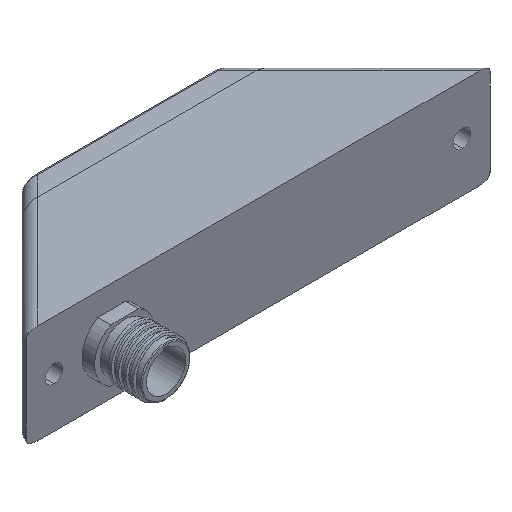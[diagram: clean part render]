
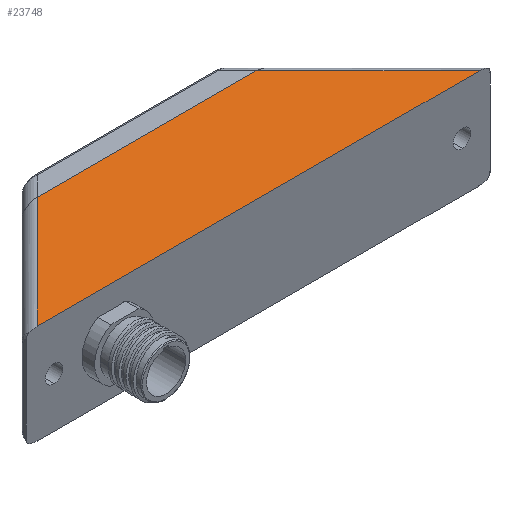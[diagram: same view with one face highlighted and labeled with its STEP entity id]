
A CAD part, isometric view. The second image highlights one B-rep face of the part: STEP entity #23748.
In plain terms, the highlighted planar face has unit normal (0, 0, 1).
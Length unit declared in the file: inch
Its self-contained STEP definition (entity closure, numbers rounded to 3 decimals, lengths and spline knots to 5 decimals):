
#218 = CARTESIAN_POINT ( 'NONE',  ( 0., 2.75, 0.5795 ) ) ;
#1493 = VECTOR ( 'NONE', #52422, 39.37008 ) ;
#2829 = DIRECTION ( 'NONE',  ( 0., 0., -1. ) ) ;
#3501 = VERTEX_POINT ( 'NONE', #37445 ) ;
#3709 = DIRECTION ( 'NONE',  ( -0.707, -0.707, 0. ) ) ;
#4293 = CARTESIAN_POINT ( 'NONE',  ( -0.08839, 2.66161, 0.5795 ) ) ;
#5758 = VECTOR ( 'NONE', #3709, 39.37008 ) ;
#6595 = VERTEX_POINT ( 'NONE', #27527 ) ;
#6928 = FACE_OUTER_BOUND ( 'NONE', #32330, .T. ) ;
#7852 = ORIENTED_EDGE ( 'NONE', *, *, #54850, .T. ) ;
#14604 = CARTESIAN_POINT ( 'NONE',  ( -1.45, 1.3, 0.5795 ) ) ;
#15787 = EDGE_CURVE ( 'NONE', #44847, #6595, #27568, .T. ) ;
#18565 = VECTOR ( 'NONE', #35562, 39.37008 ) ;
#22598 = ORIENTED_EDGE ( 'NONE', *, *, #15787, .T. ) ;
#22749 = ORIENTED_EDGE ( 'NONE', *, *, #51250, .T. ) ;
#23748 = ADVANCED_FACE ( 'NONE', ( #6928 ), #23929, .F. ) ;
#23929 = PLANE ( 'NONE',  #27787 ) ;
#27527 = CARTESIAN_POINT ( 'NONE',  ( 2.57322, 0., 0.5795 ) ) ;
#27568 = LINE ( 'NONE', #44491, #18565 ) ;
#27787 = AXIS2_PLACEMENT_3D ( 'NONE', #218, #2829, #34349 ) ;
#30111 = VERTEX_POINT ( 'NONE', #36519 ) ;
#30122 = ORIENTED_EDGE ( 'NONE', *, *, #51898, .T. ) ;
#31149 = CARTESIAN_POINT ( 'NONE',  ( -2.57322, 0., 0.5795 ) ) ;
#32330 = EDGE_LOOP ( 'NONE', ( #30122, #22749, #22598, #7852 ) ) ;
#34349 = DIRECTION ( 'NONE',  ( -1., 0., 0. ) ) ;
#34492 = VECTOR ( 'NONE', #50929, 39.37008 ) ;
#35562 = DIRECTION ( 'NONE',  ( 1., 0., 0. ) ) ;
#36519 = CARTESIAN_POINT ( 'NONE',  ( -1.27322, 1.3, 0.5795 ) ) ;
#37445 = CARTESIAN_POINT ( 'NONE',  ( 1.27322, 1.3, 0.5795 ) ) ;
#41410 = LINE ( 'NONE', #45889, #5758 ) ;
#44491 = CARTESIAN_POINT ( 'NONE',  ( -2.75, 0., 0.5795 ) ) ;
#44847 = VERTEX_POINT ( 'NONE', #31149 ) ;
#45889 = CARTESIAN_POINT ( 'NONE',  ( 0.08839, 2.66161, 0.5795 ) ) ;
#50660 = LINE ( 'NONE', #4293, #34492 ) ;
#50929 = DIRECTION ( 'NONE',  ( -0.707, 0.707, 0. ) ) ;
#51250 = EDGE_CURVE ( 'NONE', #30111, #44847, #41410, .T. ) ;
#51898 = EDGE_CURVE ( 'NONE', #3501, #30111, #52700, .T. ) ;
#52422 = DIRECTION ( 'NONE',  ( -1., 0., 0. ) ) ;
#52700 = LINE ( 'NONE', #14604, #1493 ) ;
#54850 = EDGE_CURVE ( 'NONE', #6595, #3501, #50660, .T. ) ;
